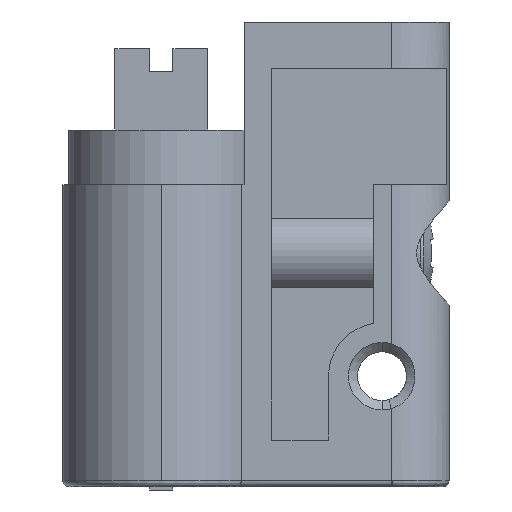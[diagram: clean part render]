
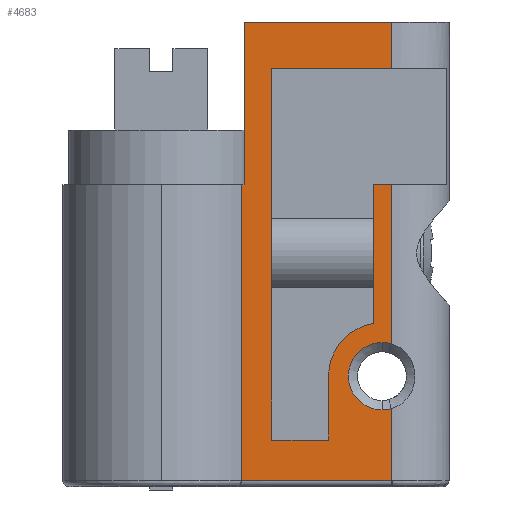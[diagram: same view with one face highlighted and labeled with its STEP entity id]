
A CAD part, left-side view. The second image highlights one B-rep face of the part: STEP entity #4683.
In plain terms, the highlighted planar face has unit normal (-1, 0, 0).
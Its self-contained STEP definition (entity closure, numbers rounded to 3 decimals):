
#79 = DIRECTION ( 'NONE',  ( 0., 0., 1. ) ) ;
#125 = CARTESIAN_POINT ( 'NONE',  ( -5., -14.4, -22. ) ) ;
#736 = DIRECTION ( 'NONE',  ( 0., 0., 1. ) ) ;
#790 = ORIENTED_EDGE ( 'NONE', *, *, #53079, .T. ) ;
#930 = DIRECTION ( 'NONE',  ( 0., 0., -1. ) ) ;
#1512 = VERTEX_POINT ( 'NONE', #20287 ) ;
#1697 = DIRECTION ( 'NONE',  ( 0., 0., 1. ) ) ;
#1875 = AXIS2_PLACEMENT_3D ( 'NONE', #50296, #42140, #7140 ) ;
#1948 = VECTOR ( 'NONE', #29301, 1000. ) ;
#2128 = EDGE_CURVE ( 'NONE', #38451, #23350, #18739, .T. ) ;
#3246 = CIRCLE ( 'NONE', #1875, 2.9 ) ;
#3738 = ORIENTED_EDGE ( 'NONE', *, *, #51333, .T. ) ;
#3888 = CARTESIAN_POINT ( 'NONE',  ( -5., -19.8, 10. ) ) ;
#4058 = CARTESIAN_POINT ( 'NONE',  ( -5., -19., -16.5 ) ) ;
#4683 = ADVANCED_FACE ( 'NONE', ( #4770 ), #29758, .T. ) ;
#4770 = FACE_OUTER_BOUND ( 'NONE', #36132, .T. ) ;
#5733 = ORIENTED_EDGE ( 'NONE', *, *, #2128, .T. ) ;
#5913 = VECTOR ( 'NONE', #25431, 1000. ) ;
#6660 = EDGE_CURVE ( 'NONE', #15590, #15196, #31780, .T. ) ;
#6913 = CARTESIAN_POINT ( 'NONE',  ( -5., -19.8, 14. ) ) ;
#7140 = DIRECTION ( 'NONE',  ( 0., 0., 1. ) ) ;
#7403 = CARTESIAN_POINT ( 'NONE',  ( -5., -14.4, -16.5 ) ) ;
#7542 = CARTESIAN_POINT ( 'NONE',  ( -5., -9.5, 14. ) ) ;
#8776 = DIRECTION ( 'NONE',  ( -1., 0., 0. ) ) ;
#9078 = CARTESIAN_POINT ( 'NONE',  ( -5., -7.12, 14. ) ) ;
#10339 = VERTEX_POINT ( 'NONE', #36072 ) ;
#11265 = CARTESIAN_POINT ( 'NONE',  ( -5., 0., 0. ) ) ;
#11580 = CARTESIAN_POINT ( 'NONE',  ( -5., -19.8, -19.287 ) ) ;
#12092 = CARTESIAN_POINT ( 'NONE',  ( -5., -14.4, 14. ) ) ;
#12966 = CARTESIAN_POINT ( 'NONE',  ( -5., -19.8, 14. ) ) ;
#13264 = DIRECTION ( 'NONE',  ( 0., -1., 0. ) ) ;
#13984 = VECTOR ( 'NONE', #22251, 1000. ) ;
#14148 = AXIS2_PLACEMENT_3D ( 'NONE', #26164, #8776, #47210 ) ;
#14268 = LINE ( 'NONE', #7542, #18345 ) ;
#14821 = DIRECTION ( 'NONE',  ( 0., -1., 0. ) ) ;
#14912 = VECTOR ( 'NONE', #14821, 1000. ) ;
#14975 = ORIENTED_EDGE ( 'NONE', *, *, #47536, .T. ) ;
#15147 = CARTESIAN_POINT ( 'NONE',  ( -5., -19.8, -25.5 ) ) ;
#15196 = VERTEX_POINT ( 'NONE', #15147 ) ;
#15590 = VERTEX_POINT ( 'NONE', #45976 ) ;
#16212 = DIRECTION ( 'NONE',  ( 0., 0., 1. ) ) ;
#16347 = VECTOR ( 'NONE', #79, 1000. ) ;
#16348 = VERTEX_POINT ( 'NONE', #125 ) ;
#16888 = DIRECTION ( 'NONE',  ( 0., 0., 1. ) ) ;
#17054 = LINE ( 'NONE', #50947, #36676 ) ;
#17261 = CARTESIAN_POINT ( 'NONE',  ( -5., -7.12, 14. ) ) ;
#17317 = DIRECTION ( 'NONE',  ( 0., 0., 1. ) ) ;
#18345 = VECTOR ( 'NONE', #16212, 1000. ) ;
#18522 = VERTEX_POINT ( 'NONE', #43894 ) ;
#18636 = EDGE_CURVE ( 'NONE', #1512, #46002, #50427, .T. ) ;
#18739 = LINE ( 'NONE', #11265, #5913 ) ;
#19583 = ORIENTED_EDGE ( 'NONE', *, *, #31493, .F. ) ;
#20140 = CARTESIAN_POINT ( 'NONE',  ( -5., -9.5, 10. ) ) ;
#20287 = CARTESIAN_POINT ( 'NONE',  ( -5., -19., -19.4 ) ) ;
#21605 = CARTESIAN_POINT ( 'NONE',  ( -5., -6.874, 14. ) ) ;
#21907 = VERTEX_POINT ( 'NONE', #3888 ) ;
#21913 = CARTESIAN_POINT ( 'NONE',  ( -5., -19.8, 14. ) ) ;
#22251 = DIRECTION ( 'NONE',  ( 0., 1., 0. ) ) ;
#23350 = VERTEX_POINT ( 'NONE', #41405 ) ;
#23814 = VECTOR ( 'NONE', #930, 1000. ) ;
#24263 = CARTESIAN_POINT ( 'NONE',  ( -5., -19., -16.5 ) ) ;
#24447 = EDGE_CURVE ( 'NONE', #15196, #40961, #25248, .T. ) ;
#25194 = LINE ( 'NONE', #9078, #23814 ) ;
#25248 = LINE ( 'NONE', #40285, #46952 ) ;
#25431 = DIRECTION ( 'NONE',  ( 0., 1., 0. ) ) ;
#25623 = CARTESIAN_POINT ( 'NONE',  ( -5., -18.3, 14. ) ) ;
#25691 = DIRECTION ( 'NONE',  ( 0., 0., -1. ) ) ;
#26053 = CARTESIAN_POINT ( 'NONE',  ( -5., -19.8, -22. ) ) ;
#26108 = ORIENTED_EDGE ( 'NONE', *, *, #28643, .F. ) ;
#26164 = CARTESIAN_POINT ( 'NONE',  ( -5., -19.8, 14. ) ) ;
#27632 = ORIENTED_EDGE ( 'NONE', *, *, #49843, .T. ) ;
#27695 = AXIS2_PLACEMENT_3D ( 'NONE', #24263, #28233, #36924 ) ;
#27718 = AXIS2_PLACEMENT_3D ( 'NONE', #48429, #44618, #53315 ) ;
#28201 = LINE ( 'NONE', #26053, #13984 ) ;
#28233 = DIRECTION ( 'NONE',  ( -1., 0., 0. ) ) ;
#28643 = EDGE_CURVE ( 'NONE', #10339, #33406, #37283, .T. ) ;
#29010 = ORIENTED_EDGE ( 'NONE', *, *, #38266, .T. ) ;
#29301 = DIRECTION ( 'NONE',  ( 0., 1., 0. ) ) ;
#29413 = EDGE_CURVE ( 'NONE', #18522, #48793, #14268, .T. ) ;
#29553 = CARTESIAN_POINT ( 'NONE',  ( -5., -18.3, -11.954 ) ) ;
#29744 = EDGE_CURVE ( 'NONE', #10339, #46584, #47504, .T. ) ;
#29758 = PLANE ( 'NONE',  #14148 ) ;
#30352 = LINE ( 'NONE', #12966, #41859 ) ;
#30565 = ORIENTED_EDGE ( 'NONE', *, *, #29413, .T. ) ;
#31460 = VERTEX_POINT ( 'NONE', #17261 ) ;
#31493 = EDGE_CURVE ( 'NONE', #15590, #23350, #39381, .T. ) ;
#31780 = LINE ( 'NONE', #56019, #33793 ) ;
#33216 = EDGE_CURVE ( 'NONE', #46584, #37974, #51594, .T. ) ;
#33406 = VERTEX_POINT ( 'NONE', #34593 ) ;
#33793 = VECTOR ( 'NONE', #13264, 1000. ) ;
#33994 = CIRCLE ( 'NONE', #51818, 2.9 ) ;
#34107 = DIRECTION ( 'NONE',  ( 1., 0., 0. ) ) ;
#34593 = CARTESIAN_POINT ( 'NONE',  ( -5., -19.8, 0. ) ) ;
#35270 = ORIENTED_EDGE ( 'NONE', *, *, #6660, .T. ) ;
#35309 = ORIENTED_EDGE ( 'NONE', *, *, #49977, .T. ) ;
#35675 = CARTESIAN_POINT ( 'NONE',  ( -5., -19.8, -13.713 ) ) ;
#35922 = VECTOR ( 'NONE', #56078, 1000. ) ;
#36072 = CARTESIAN_POINT ( 'NONE',  ( -5., -18.3, 0. ) ) ;
#36132 = EDGE_LOOP ( 'NONE', ( #19583, #35270, #40308, #27632, #44356, #29010, #35309, #26108, #55128, #52183, #14975, #790, #30565, #52880, #3738, #48283, #47388, #5733 ) ) ;
#36383 = CARTESIAN_POINT ( 'NONE',  ( -5., -18.3, 0. ) ) ;
#36676 = VECTOR ( 'NONE', #41451, 1000. ) ;
#36868 = VERTEX_POINT ( 'NONE', #6913 ) ;
#36924 = DIRECTION ( 'NONE',  ( 0., 0., 1. ) ) ;
#37047 = VECTOR ( 'NONE', #736, 1000. ) ;
#37283 = LINE ( 'NONE', #36383, #14912 ) ;
#37974 = VERTEX_POINT ( 'NONE', #7403 ) ;
#38266 = EDGE_CURVE ( 'NONE', #46002, #48365, #33994, .T. ) ;
#38451 = VERTEX_POINT ( 'NONE', #47775 ) ;
#38617 = EDGE_CURVE ( 'NONE', #31460, #38451, #25194, .T. ) ;
#38748 = EDGE_CURVE ( 'NONE', #48793, #21907, #17054, .T. ) ;
#39192 = LINE ( 'NONE', #55238, #1948 ) ;
#39381 = LINE ( 'NONE', #21605, #16347 ) ;
#40285 = CARTESIAN_POINT ( 'NONE',  ( -5., -19.8, 14. ) ) ;
#40308 = ORIENTED_EDGE ( 'NONE', *, *, #24447, .T. ) ;
#40961 = VERTEX_POINT ( 'NONE', #11580 ) ;
#41405 = CARTESIAN_POINT ( 'NONE',  ( -5., -6.874, 0. ) ) ;
#41451 = DIRECTION ( 'NONE',  ( 0., -1., 0. ) ) ;
#41859 = VECTOR ( 'NONE', #17317, 1000. ) ;
#42140 = DIRECTION ( 'NONE',  ( 1., 0., 0. ) ) ;
#43894 = CARTESIAN_POINT ( 'NONE',  ( -5., -9.5, -22. ) ) ;
#44147 = CARTESIAN_POINT ( 'NONE',  ( -5., -19., -13.6 ) ) ;
#44356 = ORIENTED_EDGE ( 'NONE', *, *, #18636, .T. ) ;
#44618 = DIRECTION ( 'NONE',  ( 1., 0., 0. ) ) ;
#45976 = CARTESIAN_POINT ( 'NONE',  ( -5., -6.874, -25.5 ) ) ;
#46002 = VERTEX_POINT ( 'NONE', #44147 ) ;
#46584 = VERTEX_POINT ( 'NONE', #29553 ) ;
#46952 = VECTOR ( 'NONE', #1697, 1000. ) ;
#47210 = DIRECTION ( 'NONE',  ( 0., 0., 1. ) ) ;
#47388 = ORIENTED_EDGE ( 'NONE', *, *, #38617, .T. ) ;
#47504 = LINE ( 'NONE', #25623, #35922 ) ;
#47536 = EDGE_CURVE ( 'NONE', #37974, #16348, #55428, .T. ) ;
#47690 = EDGE_CURVE ( 'NONE', #36868, #31460, #39192, .T. ) ;
#47775 = CARTESIAN_POINT ( 'NONE',  ( -5., -7.12, 0. ) ) ;
#48283 = ORIENTED_EDGE ( 'NONE', *, *, #47690, .T. ) ;
#48365 = VERTEX_POINT ( 'NONE', #35675 ) ;
#48429 = CARTESIAN_POINT ( 'NONE',  ( -5., -19., -16.5 ) ) ;
#48793 = VERTEX_POINT ( 'NONE', #20140 ) ;
#49843 = EDGE_CURVE ( 'NONE', #40961, #1512, #3246, .T. ) ;
#49977 = EDGE_CURVE ( 'NONE', #48365, #33406, #30352, .T. ) ;
#50296 = CARTESIAN_POINT ( 'NONE',  ( -5., -19., -16.5 ) ) ;
#50427 = CIRCLE ( 'NONE', #27718, 2.9 ) ;
#50947 = CARTESIAN_POINT ( 'NONE',  ( -5., -19.8, 10. ) ) ;
#51333 = EDGE_CURVE ( 'NONE', #21907, #36868, #53326, .T. ) ;
#51594 = CIRCLE ( 'NONE', #27695, 4.6 ) ;
#51818 = AXIS2_PLACEMENT_3D ( 'NONE', #4058, #34107, #16888 ) ;
#52183 = ORIENTED_EDGE ( 'NONE', *, *, #33216, .T. ) ;
#52880 = ORIENTED_EDGE ( 'NONE', *, *, #38748, .T. ) ;
#53079 = EDGE_CURVE ( 'NONE', #16348, #18522, #28201, .T. ) ;
#53315 = DIRECTION ( 'NONE',  ( 0., 0., 1. ) ) ;
#53326 = LINE ( 'NONE', #21913, #37047 ) ;
#53423 = VECTOR ( 'NONE', #25691, 1000. ) ;
#55128 = ORIENTED_EDGE ( 'NONE', *, *, #29744, .T. ) ;
#55238 = CARTESIAN_POINT ( 'NONE',  ( -5., -19.8, 14. ) ) ;
#55428 = LINE ( 'NONE', #12092, #53423 ) ;
#56019 = CARTESIAN_POINT ( 'NONE',  ( -5., -19.8, -25.5 ) ) ;
#56078 = DIRECTION ( 'NONE',  ( 0., 0., -1. ) ) ;
